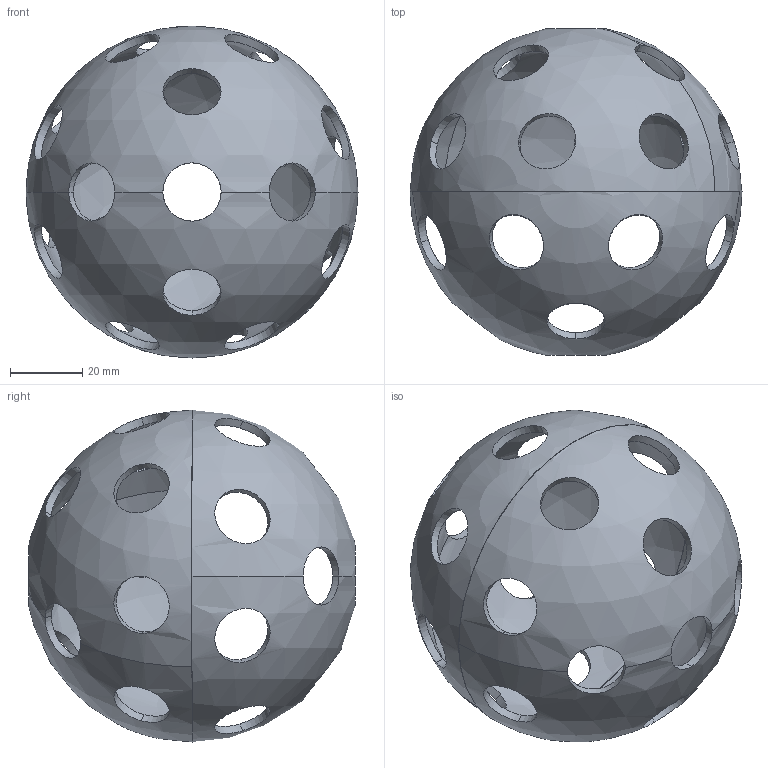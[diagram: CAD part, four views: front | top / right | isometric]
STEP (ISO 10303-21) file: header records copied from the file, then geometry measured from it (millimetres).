
FILE_DESCRIPTION (( 'STEP AP214' ), '1' );
FILE_NAME ('am-5852_blue Blue Alliance Nectar.STEP', '2026-07-23T19:48:29', ( '' ), ( '' ), 'SwSTEP 2.0', 'SolidWorks 2024', '' );
FILE_SCHEMA (( 'AUTOMOTIVE_DESIGN' ));
Length unit declared in the file: millimetre
Products named in the file (1): am-5852_blue Blue Alliance Nectar
Bounding box: 91.95 x 90.52 x 91.95 mm (x, y, z)
Volume: 43129.8 mm3; surface area: 44082.4 mm2
Topology: 2 solids, 2 shells, 62 faces, 204 edges, 128 vertices
Faces by surface type: cylinder 52, sphere 8, plane 2
Entity records: 2316 total; most frequent: DIRECTION 450, ORIENTED_EDGE 376, CARTESIAN_POINT 371, AXIS2_PLACEMENT_3D 199, EDGE_CURVE 188, CIRCLE 136, VERTEX_POINT 120, EDGE_LOOP 104
